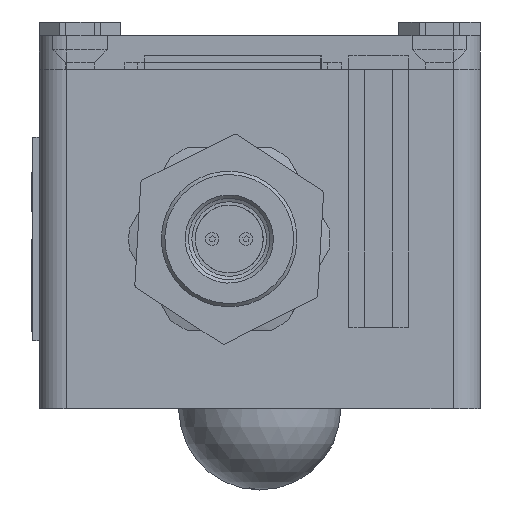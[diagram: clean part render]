
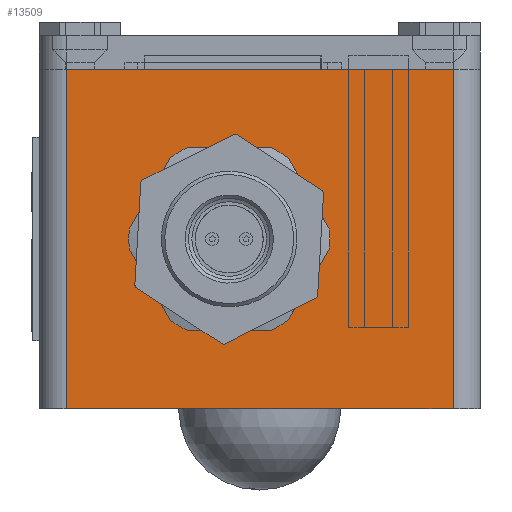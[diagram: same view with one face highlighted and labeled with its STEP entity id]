
A CAD part, left-side view. The second image highlights one B-rep face of the part: STEP entity #13509.
In plain terms, the highlighted planar face has unit normal (-1, 0, 0).
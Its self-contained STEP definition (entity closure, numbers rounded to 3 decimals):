
#1295=LINE('',#20057,#2317);
#1379=LINE('',#20499,#2401);
#1389=LINE('',#20526,#2411);
#1390=LINE('',#20528,#2412);
#2317=VECTOR('',#15865,57.);
#2401=VECTOR('',#16371,50.);
#2411=VECTOR('',#16401,50.);
#2412=VECTOR('',#16404,57.);
#3257=PLANE('',#14511);
#3669=FACE_BOUND('',#5044,.T.);
#4116=FACE_OUTER_BOUND('',#5043,.T.);
#5043=EDGE_LOOP('',(#10389,#10390,#10391,#10392));
#5044=EDGE_LOOP('',(#10393));
#5996=CIRCLE('',#14415,10.5);
#6591=VERTEX_POINT('',#20055);
#6592=VERTEX_POINT('',#20056);
#6684=VERTEX_POINT('',#20309);
#6739=VERTEX_POINT('',#20498);
#6746=VERTEX_POINT('',#20524);
#7954=EDGE_CURVE('',#6591,#6592,#1295,.T.);
#8063=EDGE_CURVE('',#6684,#6684,#5996,.T.);
#8142=EDGE_CURVE('',#6591,#6739,#1379,.T.);
#8156=EDGE_CURVE('',#6592,#6746,#1389,.T.);
#8157=EDGE_CURVE('',#6739,#6746,#1390,.T.);
#10389=ORIENTED_EDGE('',*,*,#7954,.T.);
#10390=ORIENTED_EDGE('',*,*,#8156,.T.);
#10391=ORIENTED_EDGE('',*,*,#8157,.F.);
#10392=ORIENTED_EDGE('',*,*,#8142,.F.);
#10393=ORIENTED_EDGE('',*,*,#8063,.T.);
#13509=ADVANCED_FACE('',(#4116,#3669),#3257,.T.);
#14415=AXIS2_PLACEMENT_3D('',#20310,#16151,#16152);
#14511=AXIS2_PLACEMENT_3D('',#20527,#16402,#16403);
#15865=DIRECTION('',(0.,-1.,0.));
#16151=DIRECTION('center_axis',(1.,0.,0.));
#16152=DIRECTION('ref_axis',(0.,0.,-1.));
#16371=DIRECTION('',(0.,0.,1.));
#16401=DIRECTION('',(0.,0.,1.));
#16402=DIRECTION('center_axis',(-1.,0.,0.));
#16403=DIRECTION('ref_axis',(0.,-1.,0.));
#16404=DIRECTION('',(0.,-1.,0.));
#20055=CARTESIAN_POINT('',(-57.5,28.5,0.));
#20056=CARTESIAN_POINT('',(-57.5,-28.5,0.));
#20057=CARTESIAN_POINT('',(-57.5,28.5,0.));
#20309=CARTESIAN_POINT('',(-57.5,4.5,35.5));
#20310=CARTESIAN_POINT('Origin',(-57.5,4.5,25.));
#20498=CARTESIAN_POINT('',(-57.5,28.5,50.));
#20499=CARTESIAN_POINT('',(-57.5,28.5,0.));
#20524=CARTESIAN_POINT('',(-57.5,-28.5,50.));
#20526=CARTESIAN_POINT('',(-57.5,-28.5,0.));
#20527=CARTESIAN_POINT('Origin',(-57.5,28.5,0.));
#20528=CARTESIAN_POINT('',(-57.5,28.5,50.));
